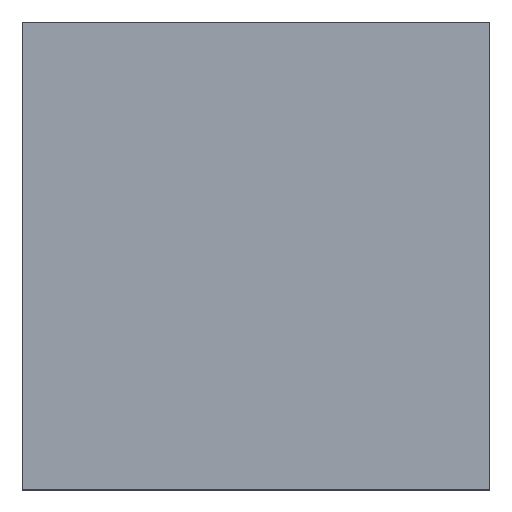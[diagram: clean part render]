
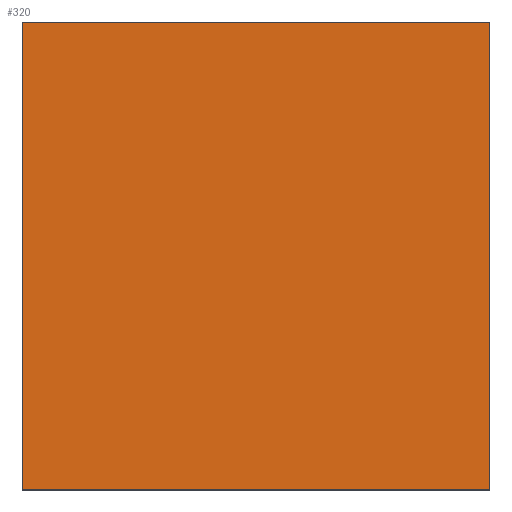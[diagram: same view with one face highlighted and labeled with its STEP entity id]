
A CAD part, top view. The second image highlights one B-rep face of the part: STEP entity #320.
In plain terms, the highlighted planar face has unit normal (0, 0, 1).
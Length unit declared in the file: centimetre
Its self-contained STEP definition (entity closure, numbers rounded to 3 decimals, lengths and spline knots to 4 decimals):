
#7 = CARTESIAN_POINT ( 'NONE',  ( 1000., 0., 1000. ) ) ;
#27 = EDGE_CURVE ( 'NONE', #225, #291, #969, .T. ) ;
#33 = LINE ( 'NONE', #491, #93 ) ;
#37 = CARTESIAN_POINT ( 'NONE',  ( 0., 0., 1000. ) ) ;
#93 = VECTOR ( 'NONE', #956, 100. ) ;
#95 = VECTOR ( 'NONE', #192, 100. ) ;
#96 = EDGE_CURVE ( 'NONE', #296, #131, #649, .T. ) ;
#121 = EDGE_CURVE ( 'NONE', #291, #296, #644, .T. ) ;
#131 = VERTEX_POINT ( 'NONE', #955 ) ;
#141 = CARTESIAN_POINT ( 'NONE',  ( 0., 0., 1000. ) ) ;
#156 = FACE_OUTER_BOUND ( 'NONE', #730, .T. ) ;
#166 = CARTESIAN_POINT ( 'NONE',  ( 1000., 1000., 1000. ) ) ;
#192 = DIRECTION ( 'NONE',  ( 1., 0., 0. ) ) ;
#193 = ORIENTED_EDGE ( 'NONE', *, *, #847, .T. ) ;
#194 = CARTESIAN_POINT ( 'NONE',  ( 1000., 1000., 1000. ) ) ;
#225 = VERTEX_POINT ( 'NONE', #141 ) ;
#254 = DIRECTION ( 'NONE',  ( 0., 1., 0. ) ) ;
#275 = DIRECTION ( 'NONE',  ( -1., 0., 0. ) ) ;
#291 = VERTEX_POINT ( 'NONE', #7 ) ;
#296 = VERTEX_POINT ( 'NONE', #166 ) ;
#318 = AXIS2_PLACEMENT_3D ( 'NONE', #924, #704, #932 ) ;
#320 = ADVANCED_FACE ( 'NONE', ( #156 ), #855, .T. ) ;
#446 = VECTOR ( 'NONE', #275, 100. ) ;
#491 = CARTESIAN_POINT ( 'NONE',  ( 0., 1000., 1000. ) ) ;
#535 = ORIENTED_EDGE ( 'NONE', *, *, #96, .T. ) ;
#623 = ORIENTED_EDGE ( 'NONE', *, *, #121, .T. ) ;
#644 = LINE ( 'NONE', #194, #690 ) ;
#649 = LINE ( 'NONE', #963, #446 ) ;
#690 = VECTOR ( 'NONE', #254, 100. ) ;
#704 = DIRECTION ( 'NONE',  ( 0., 0., 1. ) ) ;
#730 = EDGE_LOOP ( 'NONE', ( #193, #968, #623, #535 ) ) ;
#847 = EDGE_CURVE ( 'NONE', #131, #225, #33, .T. ) ;
#855 = PLANE ( 'NONE',  #318 ) ;
#924 = CARTESIAN_POINT ( 'NONE',  ( 0., 0., 1000. ) ) ;
#932 = DIRECTION ( 'NONE',  ( 1., 0., 0. ) ) ;
#955 = CARTESIAN_POINT ( 'NONE',  ( 0., 1000., 1000. ) ) ;
#956 = DIRECTION ( 'NONE',  ( 0., -1., 0. ) ) ;
#963 = CARTESIAN_POINT ( 'NONE',  ( 0., 1000., 1000. ) ) ;
#968 = ORIENTED_EDGE ( 'NONE', *, *, #27, .T. ) ;
#969 = LINE ( 'NONE', #37, #95 ) ;
